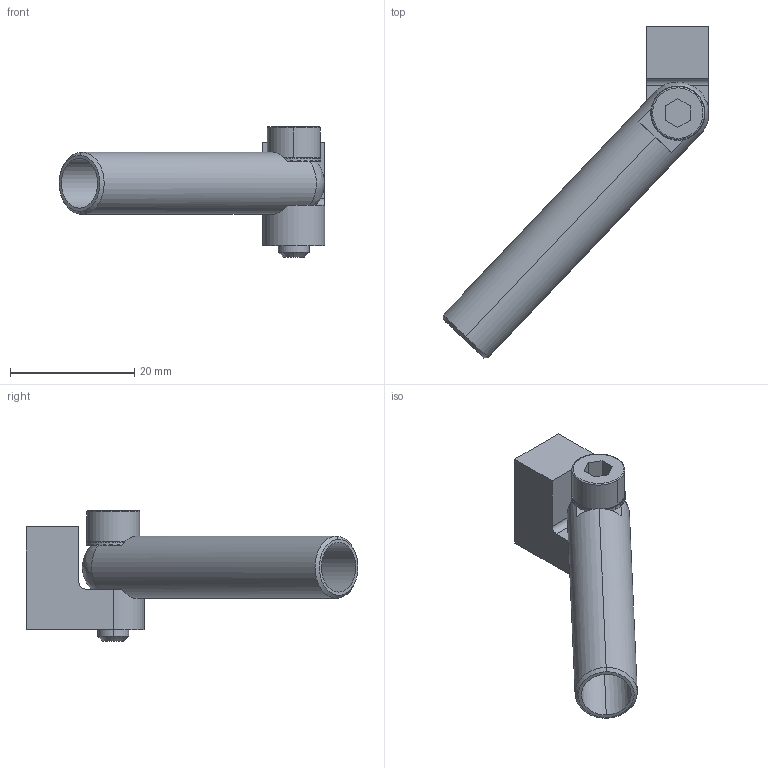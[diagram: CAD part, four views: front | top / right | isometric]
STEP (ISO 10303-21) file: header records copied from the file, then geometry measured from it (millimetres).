
FILE_DESCRIPTION (( 'STEP AP214' ), '1' );
FILE_NAME ('SEAV-M510L45.STEP', '2019-11-11T03:59:21', ( '微软用户' ), ( '微软中国' ), 'SwSTEP 2.0', 'SolidWorks 2016', '' );
FILE_SCHEMA (( 'AUTOMOTIVE_DESIGN' ));
Length unit declared in the file: millimetre
Products named in the file (1): SEAV-M510L45
Bounding box: 42.72 x 53.34 x 21 mm (x, y, z)
Volume: 4028 mm3; surface area: 4900.1 mm2
Topology: 4 solids, 4 shells, 253 faces, 717 edges, 469 vertices
Faces by surface type: plane 215, cylinder 25, cone 10, bspline 3
Entity records: 11280 total; most frequent: CARTESIAN_POINT 1682, DIRECTION 1447, ORIENTED_EDGE 1426, EDGE_CURVE 713, AXIS2_PLACEMENT_3D 495, VERTEX_POINT 469, VECTOR 457, LINE 457
